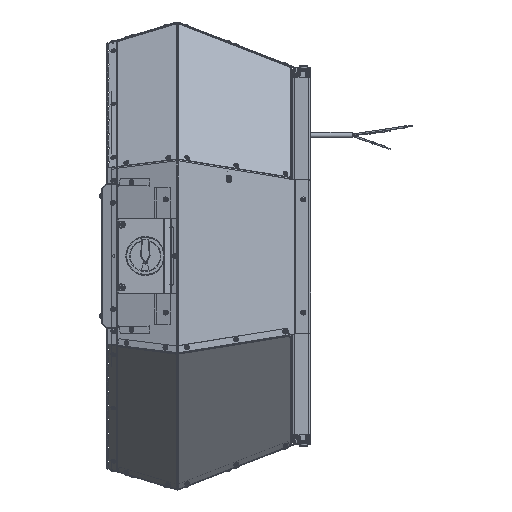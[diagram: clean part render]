
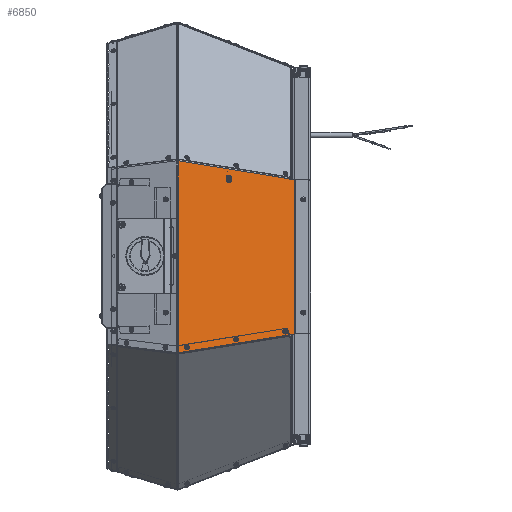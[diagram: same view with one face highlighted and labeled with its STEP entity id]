
A CAD part, left-side view. The second image highlights one B-rep face of the part: STEP entity #6850.
In plain terms, the highlighted planar face has unit normal (-0.932, -0.362, 0).
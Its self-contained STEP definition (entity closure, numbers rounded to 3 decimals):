
#6850 = ADVANCED_FACE ( 'NONE', ( #119631, #119638, #119635, #119637, #119633 ), #103538, .F. ) ;
#10453 = ORIENTED_EDGE ( 'NONE', *, *, #106764, .F. ) ;
#11700 = DIRECTION ( 'NONE',  ( 0., 0., -1. ) ) ;
#11702 = CARTESIAN_POINT ( 'NONE',  ( -372.298, 187.241, 153.95 ) ) ;
#11723 = CARTESIAN_POINT ( 'NONE',  ( -300.515, 2.651, 121.816 ) ) ;
#11732 = DIRECTION ( 'NONE',  ( -0.358, 0.922, 0.148 ) ) ;
#11968 = CARTESIAN_POINT ( 'NONE',  ( -306.091, 16.991, -120.3 ) ) ;
#11970 = DIRECTION ( 'NONE',  ( 0.932, 0.362, 0. ) ) ;
#11972 = DIRECTION ( 'NONE',  ( -0.362, 0.932, 0. ) ) ;
#11985 = CARTESIAN_POINT ( 'NONE',  ( -336.557, 95.334, -132.916 ) ) ;
#11987 = DIRECTION ( 'NONE',  ( 0.932, 0.362, 0. ) ) ;
#11989 = DIRECTION ( 'NONE',  ( -0.362, 0.932, 0. ) ) ;
#12009 = CARTESIAN_POINT ( 'NONE',  ( -306.091, 16.991, -120.3 ) ) ;
#12011 = DIRECTION ( 'NONE',  ( 0.932, 0.362, 0. ) ) ;
#12012 = DIRECTION ( 'NONE',  ( -0.362, 0.932, 0. ) ) ;
#12084 = CARTESIAN_POINT ( 'NONE',  ( -340.766, 106.157, 121.298 ) ) ;
#12086 = DIRECTION ( 'NONE',  ( -0.932, -0.362, 0. ) ) ;
#12088 = DIRECTION ( 'NONE',  ( 0.362, -0.932, 0. ) ) ;
#12100 = CARTESIAN_POINT ( 'NONE',  ( -367.023, 173.677, -145.533 ) ) ;
#12102 = DIRECTION ( 'NONE',  ( 0.932, 0.362, 0. ) ) ;
#12104 = DIRECTION ( 'NONE',  ( -0.362, 0.932, 0. ) ) ;
#14122 = LINE ( 'NONE', #16643, #14128 ) ;
#14128 = VECTOR ( 'NONE', #16651, 1000. ) ;
#14234 = LINE ( 'NONE', #16924, #14238 ) ;
#14238 = VECTOR ( 'NONE', #16932, 1000. ) ;
#16643 = CARTESIAN_POINT ( 'NONE',  ( -303.037, 9.137, 121.257 ) ) ;
#16651 = DIRECTION ( 'NONE',  ( 0., 0., -1. ) ) ;
#16924 = CARTESIAN_POINT ( 'NONE',  ( -300.387, 2.323, -124.164 ) ) ;
#16932 = DIRECTION ( 'NONE',  ( -0.358, 0.922, -0.148 ) ) ;
#28165 = AXIS2_PLACEMENT_3D ( 'NONE', #11968, #11970, #11972 ) ;
#28167 = AXIS2_PLACEMENT_3D ( 'NONE', #11985, #11987, #11989 ) ;
#28168 = AXIS2_PLACEMENT_3D ( 'NONE', #12009, #12011, #12012 ) ;
#28175 = AXIS2_PLACEMENT_3D ( 'NONE', #12084, #12086, #12088 ) ;
#28177 = AXIS2_PLACEMENT_3D ( 'NONE', #12100, #12102, #12104 ) ;
#28180 = AXIS2_PLACEMENT_3D ( 'NONE', #40336, #40337, #40338 ) ;
#28183 = AXIS2_PLACEMENT_3D ( 'NONE', #40348, #40349, #40350 ) ;
#28186 = AXIS2_PLACEMENT_3D ( 'NONE', #40360, #40361, #40362 ) ;
#32101 = ORIENTED_EDGE ( 'NONE', *, *, #106539, .T. ) ;
#32240 = ORIENTED_EDGE ( 'NONE', *, *, #106724, .F. ) ;
#32297 = ORIENTED_EDGE ( 'NONE', *, *, #106707, .F. ) ;
#32312 = ORIENTED_EDGE ( 'NONE', *, *, #106685, .F. ) ;
#32317 = ORIENTED_EDGE ( 'NONE', *, *, #106689, .T. ) ;
#32323 = ORIENTED_EDGE ( 'NONE', *, *, #106715, .T. ) ;
#32328 = ORIENTED_EDGE ( 'NONE', *, *, #106697, .T. ) ;
#32335 = ORIENTED_EDGE ( 'NONE', *, *, #106649, .T. ) ;
#32339 = ORIENTED_EDGE ( 'NONE', *, *, #106755, .F. ) ;
#32345 = ORIENTED_EDGE ( 'NONE', *, *, #106644, .T. ) ;
#32371 = ORIENTED_EDGE ( 'NONE', *, *, #106658, .T. ) ;
#32376 = ORIENTED_EDGE ( 'NONE', *, *, #106544, .T. ) ;
#32443 = ORIENTED_EDGE ( 'NONE', *, *, #92605, .F. ) ;
#32468 = ORIENTED_EDGE ( 'NONE', *, *, #92762, .F. ) ;
#34894 = EDGE_LOOP ( 'NONE', ( #32328, #32335 ) ) ;
#34896 = EDGE_LOOP ( 'NONE', ( #32345, #32371 ) ) ;
#34898 = EDGE_LOOP ( 'NONE', ( #32312, #32297 ) ) ;
#34900 = EDGE_LOOP ( 'NONE', ( #32317, #32323 ) ) ;
#34902 = EDGE_LOOP ( 'NONE', ( #32376, #32240, #32101, #32468, #10453, #32339, #32443 ) ) ;
#40336 = CARTESIAN_POINT ( 'NONE',  ( -336.557, 95.334, -132.916 ) ) ;
#40337 = DIRECTION ( 'NONE',  ( 0.932, 0.362, 0. ) ) ;
#40338 = DIRECTION ( 'NONE',  ( -0.362, 0.932, 0. ) ) ;
#40348 = CARTESIAN_POINT ( 'NONE',  ( -340.766, 106.157, 121.298 ) ) ;
#40349 = DIRECTION ( 'NONE',  ( -0.932, -0.362, 0. ) ) ;
#40350 = DIRECTION ( 'NONE',  ( 0.362, -0.932, 0. ) ) ;
#40359 = DIRECTION ( 'NONE',  ( 0.127, -0.327, 0.936 ) ) ;
#40360 = CARTESIAN_POINT ( 'NONE',  ( -367.023, 173.677, -145.533 ) ) ;
#40361 = DIRECTION ( 'NONE',  ( 0.932, 0.362, 0. ) ) ;
#40362 = DIRECTION ( 'NONE',  ( -0.362, 0.932, 0. ) ) ;
#40364 = CARTESIAN_POINT ( 'NONE',  ( -372.308, 187.269, 151.275 ) ) ;
#40400 = DIRECTION ( 'NONE',  ( 0.362, -0.932, 0. ) ) ;
#40405 = CARTESIAN_POINT ( 'NONE',  ( -300.387, 2.323, 121.257 ) ) ;
#40412 = DIRECTION ( 'NONE',  ( 0., 0., -1. ) ) ;
#40414 = CARTESIAN_POINT ( 'NONE',  ( -300.387, 2.323, 153.95 ) ) ;
#79786 = LINE ( 'NONE', #11702, #79790 ) ;
#79788 = LINE ( 'NONE', #11723, #79794 ) ;
#79790 = VECTOR ( 'NONE', #11700, 1000. ) ;
#79794 = VECTOR ( 'NONE', #11732, 1000. ) ;
#79899 = CIRCLE ( 'NONE', #28165, 2.1 ) ;
#79908 = CIRCLE ( 'NONE', #28167, 2.1 ) ;
#79920 = CIRCLE ( 'NONE', #28168, 2.1 ) ;
#79940 = CIRCLE ( 'NONE', #28175, 2.1 ) ;
#79964 = CIRCLE ( 'NONE', #28177, 2.1 ) ;
#79970 = CIRCLE ( 'NONE', #28180, 2.1 ) ;
#79981 = CIRCLE ( 'NONE', #28183, 2.1 ) ;
#80003 = LINE ( 'NONE', #40364, #80025 ) ;
#80008 = CIRCLE ( 'NONE', #28186, 2.1 ) ;
#80025 = VECTOR ( 'NONE', #40359, 1000. ) ;
#80066 = LINE ( 'NONE', #40405, #80076 ) ;
#80076 = VECTOR ( 'NONE', #40400, 1000. ) ;
#80085 = LINE ( 'NONE', #40414, #80096 ) ;
#80096 = VECTOR ( 'NONE', #40412, 1000. ) ;
#85464 = CARTESIAN_POINT ( 'NONE',  ( -300.387, 2.323, -124.164 ) ) ;
#85467 = CARTESIAN_POINT ( 'NONE',  ( -303.037, 9.137, 122.861 ) ) ;
#85469 = CARTESIAN_POINT ( 'NONE',  ( -372.298, 187.241, -153.95 ) ) ;
#85473 = CARTESIAN_POINT ( 'NONE',  ( -303.037, 9.137, 121.257 ) ) ;
#85552 = CARTESIAN_POINT ( 'NONE',  ( -372.298, 187.241, 151.354 ) ) ;
#85556 = CARTESIAN_POINT ( 'NONE',  ( -372.272, 187.176, 151.54 ) ) ;
#85557 = CARTESIAN_POINT ( 'NONE',  ( -340.004, 104.199, 121.298 ) ) ;
#85559 = CARTESIAN_POINT ( 'NONE',  ( -367.784, 175.634, -145.533 ) ) ;
#85560 = CARTESIAN_POINT ( 'NONE',  ( -341.527, 108.114, 121.298 ) ) ;
#85562 = CARTESIAN_POINT ( 'NONE',  ( -337.318, 97.291, -132.916 ) ) ;
#85563 = CARTESIAN_POINT ( 'NONE',  ( -366.262, 171.72, -145.533 ) ) ;
#85564 = CARTESIAN_POINT ( 'NONE',  ( -306.852, 18.948, -120.3 ) ) ;
#85565 = CARTESIAN_POINT ( 'NONE',  ( -335.796, 93.377, -132.916 ) ) ;
#85566 = CARTESIAN_POINT ( 'NONE',  ( -300.387, 2.323, 121.257 ) ) ;
#85567 = CARTESIAN_POINT ( 'NONE',  ( -305.33, 15.034, -120.3 ) ) ;
#92605 = EDGE_CURVE ( 'NONE', #102498, #102504, #14122, .T. ) ;
#92762 = EDGE_CURVE ( 'NONE', #102495, #102500, #14234, .T. ) ;
#102495 = VERTEX_POINT ( 'NONE', #85464 ) ;
#102498 = VERTEX_POINT ( 'NONE', #85467 ) ;
#102500 = VERTEX_POINT ( 'NONE', #85469 ) ;
#102504 = VERTEX_POINT ( 'NONE', #85473 ) ;
#102583 = VERTEX_POINT ( 'NONE', #85552 ) ;
#102587 = VERTEX_POINT ( 'NONE', #85556 ) ;
#102588 = VERTEX_POINT ( 'NONE', #85557 ) ;
#102590 = VERTEX_POINT ( 'NONE', #85559 ) ;
#102591 = VERTEX_POINT ( 'NONE', #85560 ) ;
#102593 = VERTEX_POINT ( 'NONE', #85562 ) ;
#102594 = VERTEX_POINT ( 'NONE', #85563 ) ;
#102595 = VERTEX_POINT ( 'NONE', #85564 ) ;
#102596 = VERTEX_POINT ( 'NONE', #85565 ) ;
#102597 = VERTEX_POINT ( 'NONE', #85566 ) ;
#102598 = VERTEX_POINT ( 'NONE', #85567 ) ;
#103531 = DIRECTION ( 'NONE',  ( -0.362, 0.932, 0. ) ) ;
#103538 = PLANE ( 'NONE',  #124902 ) ;
#103544 = CARTESIAN_POINT ( 'NONE',  ( -372.595, 188.007, 153.95 ) ) ;
#103560 = DIRECTION ( 'NONE',  ( 0.932, 0.362, 0. ) ) ;
#106539 = EDGE_CURVE ( 'NONE', #102583, #102500, #79786, .T. ) ;
#106544 = EDGE_CURVE ( 'NONE', #102498, #102587, #79788, .T. ) ;
#106644 = EDGE_CURVE ( 'NONE', #102595, #102598, #79899, .T. ) ;
#106649 = EDGE_CURVE ( 'NONE', #102596, #102593, #79908, .T. ) ;
#106658 = EDGE_CURVE ( 'NONE', #102598, #102595, #79920, .T. ) ;
#106685 = EDGE_CURVE ( 'NONE', #102588, #102591, #79940, .T. ) ;
#106689 = EDGE_CURVE ( 'NONE', #102590, #102594, #79964, .T. ) ;
#106697 = EDGE_CURVE ( 'NONE', #102593, #102596, #79970, .T. ) ;
#106707 = EDGE_CURVE ( 'NONE', #102591, #102588, #79981, .T. ) ;
#106715 = EDGE_CURVE ( 'NONE', #102594, #102590, #80008, .T. ) ;
#106724 = EDGE_CURVE ( 'NONE', #102583, #102587, #80003, .T. ) ;
#106755 = EDGE_CURVE ( 'NONE', #102504, #102597, #80066, .T. ) ;
#106764 = EDGE_CURVE ( 'NONE', #102597, #102495, #80085, .T. ) ;
#119631 = FACE_BOUND ( 'NONE', #34898, .T. ) ;
#119633 = FACE_OUTER_BOUND ( 'NONE', #34902, .T. ) ;
#119635 = FACE_BOUND ( 'NONE', #34894, .T. ) ;
#119637 = FACE_BOUND ( 'NONE', #34896, .T. ) ;
#119638 = FACE_BOUND ( 'NONE', #34900, .T. ) ;
#124902 = AXIS2_PLACEMENT_3D ( 'NONE', #103544, #103560, #103531 ) ;
